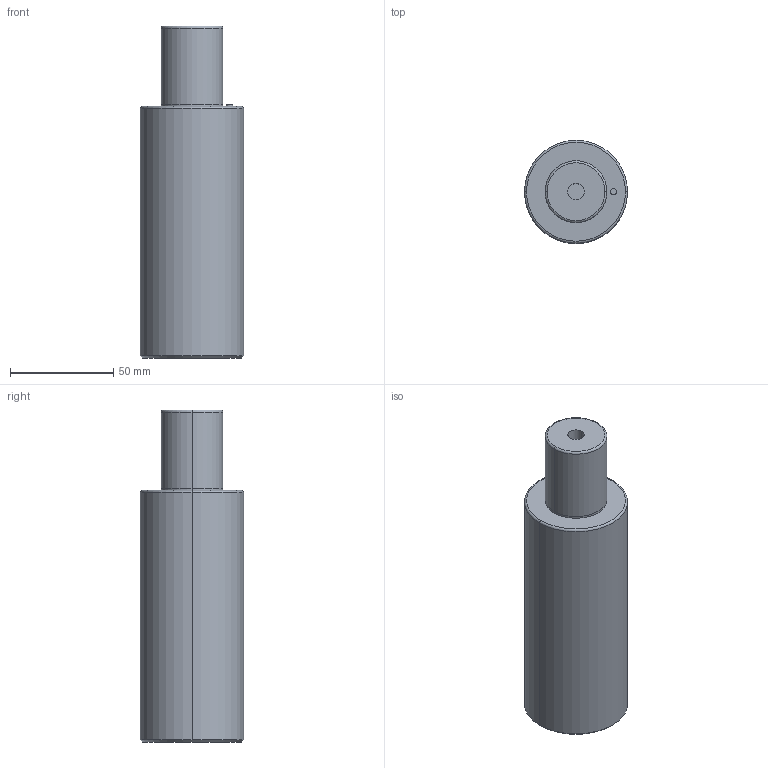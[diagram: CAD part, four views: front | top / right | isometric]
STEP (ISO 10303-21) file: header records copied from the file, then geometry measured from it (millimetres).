
FILE_DESCRIPTION(/* description */ (''),/* implementation_level */ '2;1');
FILE_NAME(/* name */ '3d_gssr50-38_03955_r00.stp',/* time_stamp */ '2011-01-10T14:15:14+09:00',/* author */ ('MISUMI'),/* organization */ (''),/* preprocessor_version */ 'ST-DEVELOPER v11',/* originating_system */ 'UGS - NX 5.0',/* authorisation */ '');
FILE_SCHEMA (('CONFIG_CONTROL_DESIGN'));
Length unit declared in the file: millimetre
Products named in the file (1): 3d_gssr50-38_03955_r00
Bounding box: 50 x 50 x 161 mm (x, y, z)
Volume: 262813.7 mm3; surface area: 28681.6 mm2
Topology: 1 solids, 1 shells, 42 faces, 88 edges, 51 vertices
Faces by surface type: cylinder 22, plane 8, cone 8, torus 4
Entity records: 1176 total; most frequent: DIRECTION 220, CARTESIAN_POINT 176, ORIENTED_EDGE 164, AXIS2_PLACEMENT_3D 95, EDGE_CURVE 82, CIRCLE 52, EDGE_LOOP 51, VERTEX_POINT 51
